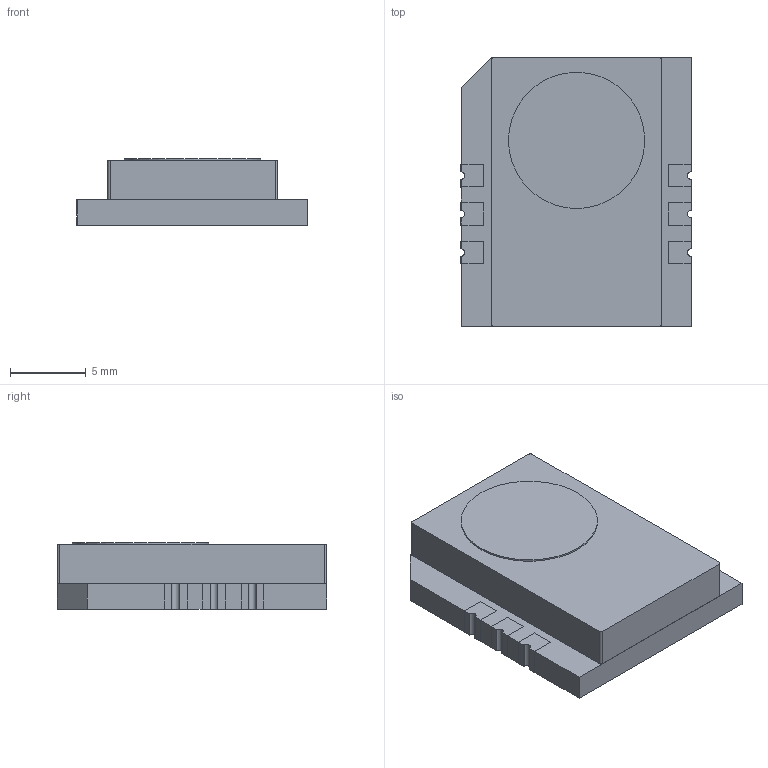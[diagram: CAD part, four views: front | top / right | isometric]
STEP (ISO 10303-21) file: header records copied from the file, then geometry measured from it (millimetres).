
FILE_DESCRIPTION(/* description */ (''),/* implementation_level */ '2;1');
FILE_NAME(/* name */ 'C:/Users/johnw/Downloads/IAQCore.step',/* time_stamp */ '2019-08-14T19:30:26-07:00',/* author */ (''),/* organization */ (''),/* preprocessor_version */ 'ST-DEVELOPER v18',/* originating_system */ 'Autodesk Translation Framework v8.6.0.1094',/* authorisation */ '');
FILE_SCHEMA (('AUTOMOTIVE_DESIGN { 1 0 10303 214 3 1 1 }'));
Length unit declared in the file: millimetre
Products named in the file (1): IAQCore
Bounding box: 15.22 x 17.8 x 4.4 mm (x, y, z)
Volume: 1001.7 mm3; surface area: 1417.7 mm2
Topology: 9 solids, 9 shells, 80 faces, 186 edges, 124 vertices
Faces by surface type: plane 63, cylinder 17
Full cylindrical faces by diameter (mm): 9 x1
Entity records: 2326 total; most frequent: CARTESIAN_POINT 391, DIRECTION 382, ORIENTED_EDGE 372, EDGE_CURVE 186, LINE 152, VECTOR 152, VERTEX_POINT 124, AXIS2_PLACEMENT_3D 115
